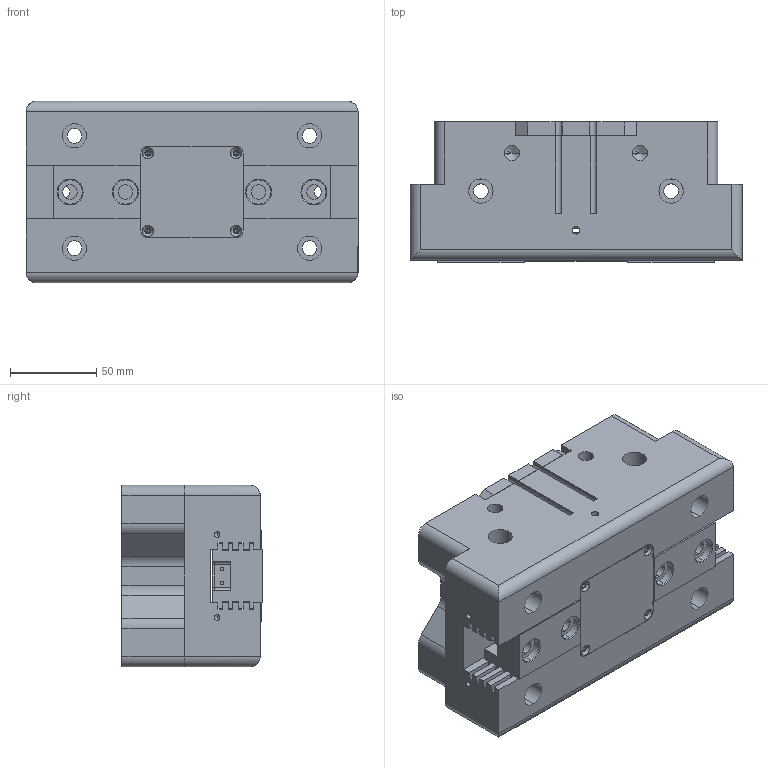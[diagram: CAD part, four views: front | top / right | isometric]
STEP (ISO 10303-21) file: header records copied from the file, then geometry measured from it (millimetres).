
FILE_DESCRIPTION (( 'STEP AP214' ), '1' );
FILE_NAME ('TWN-220A-1.STEP', '2019-12-27T11:26:34', ( '' ), ( '' ), 'SwSTEP 2.0', 'SolidWorks 2016', '' );
FILE_SCHEMA (( 'AUTOMOTIVE_DESIGN' ));
Length unit declared in the file: millimetre
Products named in the file (5): TWN-220A-1; TWN-220A-1-02; TWN-220A-1-01; TWN-220A-1-04; TWN-220A-1-03
Assembly tree (5 placements, depth 2):
  TWN-220A-1
    TWN-220A-1-01
    TWN-220A-1-03
    TWN-220A-1-02  x2
    TWN-220A-1-04
Bounding box: 192 x 81 x 105 mm (x, y, z)
Volume: 1326153.6 mm3; surface area: 199582.5 mm2
Topology: 5 solids, 11 shells, 512 faces, 1344 edges, 850 vertices
Faces by surface type: plane 224, cylinder 212, cone 76
Entity records: 14330 total; most frequent: DIRECTION 2396, CARTESIAN_POINT 2314, ORIENTED_EDGE 2196, EDGE_CURVE 1098, AXIS2_PLACEMENT_3D 860, VERTEX_POINT 714, VECTOR 676, LINE 676
